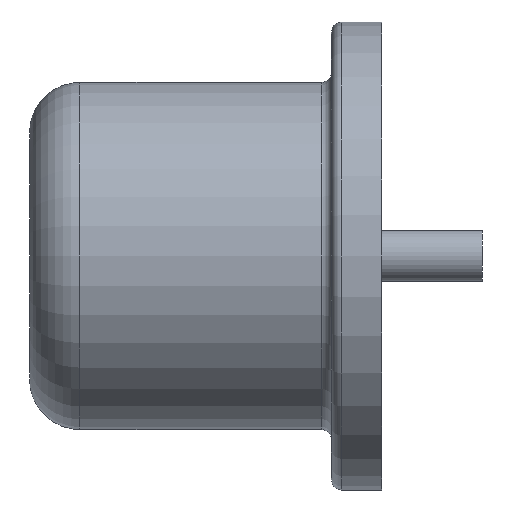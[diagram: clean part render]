
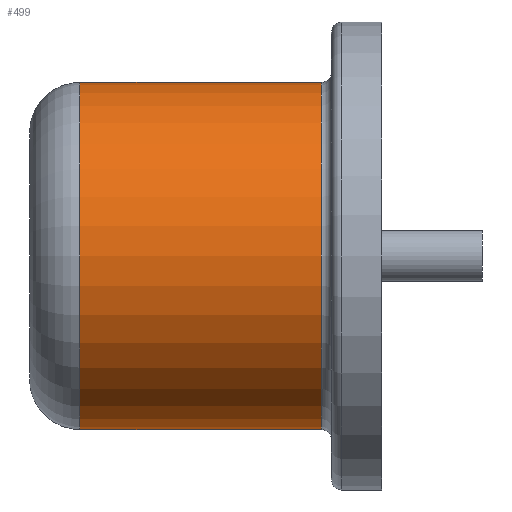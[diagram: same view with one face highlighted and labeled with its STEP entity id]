
A CAD part, left-side view. The second image highlights one B-rep face of the part: STEP entity #499.
In plain terms, the highlighted cylindrical face has radius 1.725 mm (diameter 3.45 mm), a partial arc.
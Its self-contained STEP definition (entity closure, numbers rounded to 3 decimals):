
#458 = CARTESIAN_POINT ( 'NONE',  ( -3.125, 3., -1.725 ) ) ;
#459 = VERTEX_POINT ( 'NONE', #458 ) ;
#460 = CARTESIAN_POINT ( 'NONE',  ( -3.125, 0.6, -1.725 ) ) ;
#461 = VERTEX_POINT ( 'NONE', #460 ) ;
#462 = CARTESIAN_POINT ( 'NONE',  ( -3.125, 3.5, -1.725 ) ) ;
#463 = DIRECTION ( 'NONE',  ( 0., -1., 0. ) ) ;
#464 = VECTOR ( 'NONE', #463, 1000. ) ;
#465 = LINE ( 'NONE', #462, #464 ) ;
#466 = EDGE_CURVE ( 'NONE', #459, #461, #465, .T. ) ;
#467 = ORIENTED_EDGE ( 'NONE', *, *, #466, .T. ) ;
#468 = CARTESIAN_POINT ( 'NONE',  ( -3.125, 0.6, 1.725 ) ) ;
#469 = VERTEX_POINT ( 'NONE', #468 ) ;
#470 = CARTESIAN_POINT ( 'NONE',  ( -3.125, 0.6, 0. ) ) ;
#471 = DIRECTION ( 'NONE',  ( 0., 1., 0. ) ) ;
#472 = DIRECTION ( 'NONE',  ( 0., 0., 1. ) ) ;
#473 = AXIS2_PLACEMENT_3D ( 'NONE', #470, #471, #472 ) ;
#474 = CIRCLE ( 'NONE', #473, 1.725) ;
#475 = EDGE_CURVE ( 'NONE', #461, #469, #474, .T. ) ;
#476 = ORIENTED_EDGE ( 'NONE', *, *, #475, .T. ) ;
#477 = CARTESIAN_POINT ( 'NONE',  ( -3.125, 3., 1.725 ) ) ;
#478 = VERTEX_POINT ( 'NONE', #477 ) ;
#479 = CARTESIAN_POINT ( 'NONE',  ( -3.125, 3.5, 1.725 ) ) ;
#480 = DIRECTION ( 'NONE',  ( 0., -1., 0. ) ) ;
#481 = VECTOR ( 'NONE', #480, 1000. ) ;
#482 = LINE ( 'NONE', #479, #481 ) ;
#483 = EDGE_CURVE ( 'NONE', #478, #469, #482, .T. ) ;
#484 = ORIENTED_EDGE ( 'NONE', *, *, #483, .F. ) ;
#485 = CARTESIAN_POINT ( 'NONE',  ( -3.125, 3., 0. ) ) ;
#486 = DIRECTION ( 'NONE',  ( 0., -1., 0. ) ) ;
#487 = DIRECTION ( 'NONE',  ( 0., 0., 1. ) ) ;
#488 = AXIS2_PLACEMENT_3D ( 'NONE', #485, #486, #487 ) ;
#489 = CIRCLE ( 'NONE', #488, 1.725) ;
#490 = EDGE_CURVE ( 'NONE', #478, #459, #489, .T. ) ;
#491 = ORIENTED_EDGE ( 'NONE', *, *, #490, .T. ) ;
#492 = EDGE_LOOP ( 'NONE', ( #467, #476, #484, #491 ) ) ;
#493 = FACE_OUTER_BOUND ( 'NONE', #492, .T. ) ;
#494 = CARTESIAN_POINT ( 'NONE',  ( -3.125, 3.5, 0. ) ) ;
#495 = DIRECTION ( 'NONE',  ( 0., -1., 0. ) ) ;
#496 = DIRECTION ( 'NONE',  ( 0., 0., -1. ) ) ;
#497 = AXIS2_PLACEMENT_3D ( 'NONE', #494, #495, #496 ) ;
#498 = CYLINDRICAL_SURFACE ( 'NONE', #497, 1.725) ;
#499 = ADVANCED_FACE ( 'NONE', ( #493 ), #498, .T. ) ;
